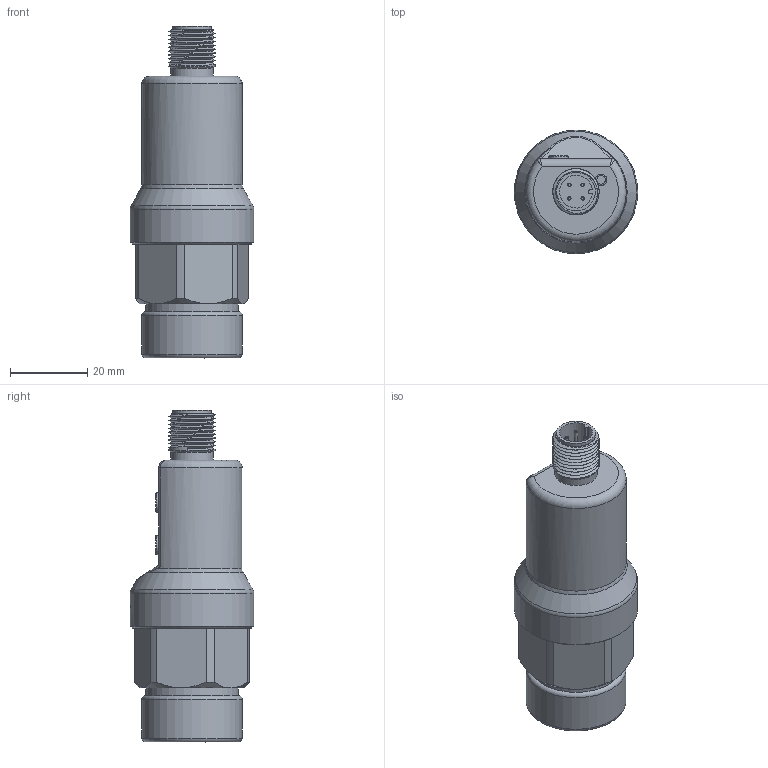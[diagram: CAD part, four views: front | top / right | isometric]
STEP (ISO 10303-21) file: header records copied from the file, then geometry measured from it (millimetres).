
FILE_DESCRIPTION( (''), '2;1');
FILE_NAME( 'PSKA_G1-8_1.step', '2025-08-21T15:15:46+08:00', (''), (''), '', '', '');
FILE_SCHEMA (('AUTOMOTIVE_DESIGN { 1 0 10303 214 3 1 1 1 }'));
Length unit declared in the file: millimetre
Products named in the file (1): PSKA G1-8_1
Bounding box: 32 x 32 x 86 mm (x, y, z)
Volume: 24189.8 mm3; surface area: 19301.7 mm2
Topology: 11 solids, 11 shells, 270 faces, 612 edges, 390 vertices
Faces by surface type: plane 140, cylinder 66, torus 24, cone 24, bspline 15, sphere 1
Full cylindrical faces by diameter (mm): 0.5 x2, 0.9 x8, 2 x4, 2.6 x1, 3 x1, 4 x1, 5 x2, 5.3 x2, 7 x1, 9.8 x2, 10 x1, 11 x1, 19.1 x1, 23 x2, 24 x1, 26 x4, 26.1 x1, 32 x1
Entity records: 12279 total; most frequent: CARTESIAN_POINT 6402, DIRECTION 1145, ORIENTED_EDGE 1054, EDGE_CURVE 527, AXIS2_PLACEMENT_3D 448, EDGE_LOOP 378, VERTEX_POINT 373, ADVANCED_FACE 270
